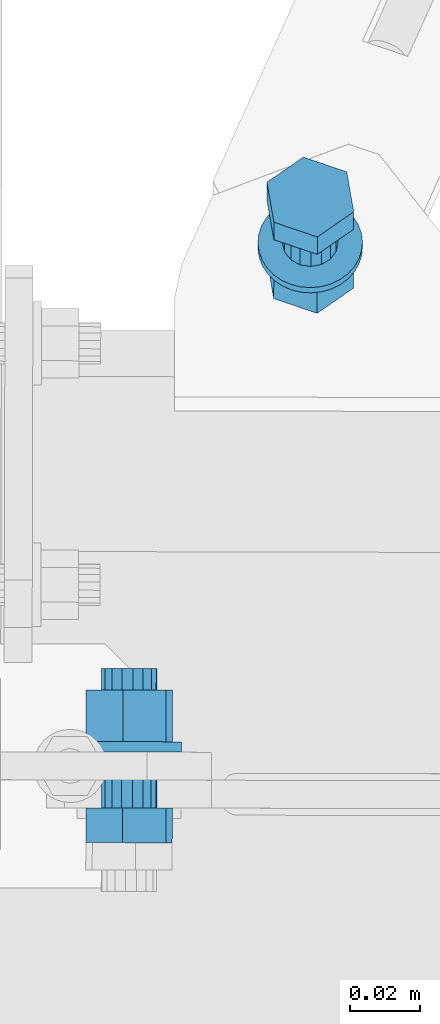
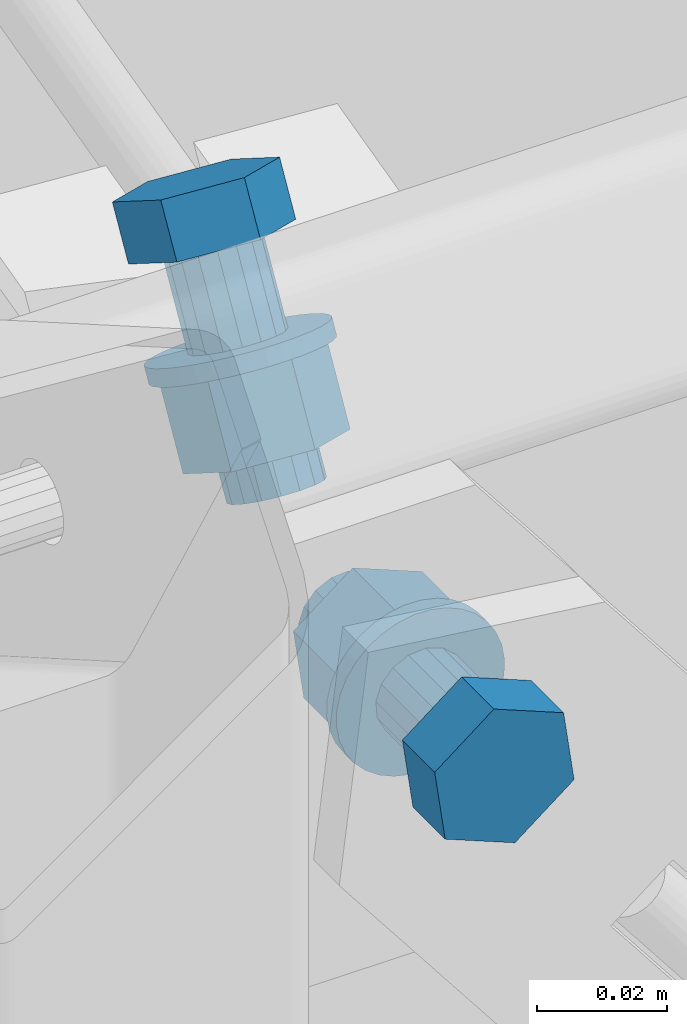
# One storey, part 207 of 288: 2 mechanical fasteners.
"""IFC2X3 building model written with IfcOpenShell, lengths in millimetres."""

import ifcopenshell
import ifcopenshell.guid

model = None  # the IFC model being written
_history = None  # IfcOwnerHistory: only IFC2X3 demands one
_inside = {}  # id of a spatial element -> (the spatial element, [elements in it])
_under = {}  # id of a project, library or spatial element -> (it, [spatial elements below it])
_declared = {}  # id of a project -> (the project, [libraries it declares])
_typed = {}  # id of a type object -> (the type object, [elements of that type])
_made_of = {}  # id of a material, layer set ... -> (it, [elements and type objects made of it])


def new_model(schema):
    """Start an empty IFC model of exactly this schema.

    Asked for "IFC4X3", IfcOpenShell would pick the latest addendum, in which some entities
    have other attributes; the version numbers below select the first issue.
    IFC2X3 requires an IfcOwnerHistory on every rooted entity: one is made here for all.
    """
    global model, _history
    if schema == "IFC4X3":
        model = ifcopenshell.file(schema_version=(4, 3, 0, 0))
    else:
        model = ifcopenshell.file(schema=schema)
    _inside.clear()
    _under.clear()
    _declared.clear()
    _typed.clear()
    _made_of.clear()
    _history = None
    if model.schema == "IFC2X3":
        org = make("IfcOrganization", Name="unknown")
        user = make(
            "IfcPersonAndOrganization",
            ThePerson=make("IfcPerson", FamilyName="unknown"),
            TheOrganization=org,
        )
        app = make(
            "IfcApplication",
            ApplicationDeveloper=org,
            Version="unknown",
            ApplicationFullName="unknown",
            ApplicationIdentifier="unknown",
        )
        _history = make(
            "IfcOwnerHistory",
            OwningUser=user,
            OwningApplication=app,
            ChangeAction="ADDED",
            CreationDate=0,
        )
    return model


def make(cls, **values):
    """One entity of the class cls with the attributes given. An attribute that is None is left unset."""
    return model.create_entity(
        cls, **{name: value for name, value in values.items() if value is not None}
    )


def entity(cls, *values):
    """Any entity or typed value of the class cls, its attributes in the order of the schema. None: left unset."""
    e = model.create_entity(cls)
    for i, value in enumerate(values):
        if value is not None:
            e[i] = value
    return e


def rooted(cls, **values):
    """An entity with a GlobalId (a new one), such as an element, a storey or a relation."""
    return make(cls, GlobalId=ifcopenshell.guid.new(), OwnerHistory=_history, **values)


def si_unit(unit_type, name, prefix=None):
    """IfcSIUnit, for example si_unit("LENGTHUNIT", "METRE", prefix="MILLI")."""
    return make("IfcSIUnit", UnitType=unit_type, Prefix=prefix, Name=name)


def converted_unit(unit_type, name, factor, base, dimensions=None, offset=None):
    """IfcConversionBasedUnit, such as the inch: factor (a typed value) times the base unit."""
    return make(
        "IfcConversionBasedUnit"
        if offset is None
        else "IfcConversionBasedUnitWithOffset",
        ConversionOffset=offset,
        Dimensions=None
        if dimensions is None
        else entity("IfcDimensionalExponents", *dimensions),
        UnitType=unit_type,
        Name=name,
        ConversionFactor=make(
            "IfcMeasureWithUnit", ValueComponent=factor, UnitComponent=base
        ),
    )


def assignment(units):
    """IfcUnitAssignment: the units of a project."""
    return None if units is None else make("IfcUnitAssignment", Units=units)


def point(xyz):
    """IfcCartesianPoint."""
    return None if xyz is None else make("IfcCartesianPoint", Coordinates=xyz)


def direction(xyz):
    """IfcDirection."""
    return None if xyz is None else make("IfcDirection", DirectionRatios=xyz)


def frame(location, z_axis=None, x_axis=None):
    """IfcAxis2Placement3D, a coordinate frame: its origin and axes. An axis left out is left unset."""
    return make(
        "IfcAxis2Placement3D",
        Location=point(location),
        Axis=direction(z_axis),
        RefDirection=direction(x_axis),
    )


def origin_with_axes():
    """The frame at (0, 0, 0) with the z axis (0, 0, 1) and the x axis (1, 0, 0) written out."""
    return frame((0.0, 0.0, 0.0), z_axis=(0.0, 0.0, 1.0), x_axis=(1.0, 0.0, 0.0))


def place(relative_to, where):
    """IfcLocalPlacement: puts the frame where relative to a parent placement (None: the world)."""
    return make(
        "IfcLocalPlacement", PlacementRelTo=relative_to, RelativePlacement=where
    )


def context(
    kind, dimensions, precision=None, world=None, true_north=None, identifier=None
):
    """IfcGeometricRepresentationContext, for example the 3D "Model" context."""
    return make(
        "IfcGeometricRepresentationContext",
        ContextIdentifier=identifier,
        ContextType=kind,
        CoordinateSpaceDimension=dimensions,
        Precision=precision,
        WorldCoordinateSystem=world,
        TrueNorth=true_north,
    )


def project(units=None, contexts=None):
    """IfcProject with its units and contexts."""
    return rooted(
        "IfcProject",
        Name="project",
        RepresentationContexts=contexts,
        UnitsInContext=assignment(units),
    )


def spatial(cls, under=None, at=None, **own):
    """A site, building, storey or space (cls), placed at a placement, below another one or the project."""
    s = rooted(cls, ObjectPlacement=at, **own)
    if under is not None:
        _under.setdefault(under.id(), (under, []))[1].append(s)
    return s


def faces_of(points, faces, orient=None, outer=None):
    """IfcFace entities. A face is a list of loops; a loop is a list of indices into points, from 0.

    orient and outer hold one flag for each loop. By default every Orientation is true, the
    first loop of a face is its IfcFaceOuterBound and the others are IfcFaceBound.
    """
    made = []
    for i, loops in enumerate(faces):
        bounds = []
        for j, loop in enumerate(loops):
            is_outer = j == 0 if outer is None else outer[i][j]
            bounds.append(
                make(
                    "IfcFaceOuterBound" if is_outer else "IfcFaceBound",
                    Bound=make("IfcPolyLoop", Polygon=[points[k] for k in loop]),
                    Orientation=True if orient is None else orient[i][j],
                )
            )
        made.append(make("IfcFace", Bounds=bounds))
    return made


def faceted_brep(points, faces, orient=None, outer=None, voids=None):
    """IfcFacetedBrep: a solid bounded by flat faces; with voids (closed shells), ...WithVoids."""
    shared = [point(p) for p in points]
    hull = make("IfcClosedShell", CfsFaces=faces_of(shared, faces, orient, outer))
    if voids is None:
        return make("IfcFacetedBrep", Outer=hull)
    return make(
        "IfcFacetedBrepWithVoids",
        Outer=hull,
        Voids=[
            make(cls, CfsFaces=faces_of(shared, fs, o, b)) for cls, fs, o, b in voids
        ],
    )


def shape(context_of_items, identifier, shape_type, items):
    """IfcShapeRepresentation: the items that make up one representation, for example the "Body"."""
    return make(
        "IfcShapeRepresentation",
        ContextOfItems=context_of_items,
        RepresentationIdentifier=identifier,
        RepresentationType=shape_type,
        Items=items,
    )


def made_of(thing, what):
    """Note that an element or type object is made of a material, layer set ...; save() writes the relation."""
    if what is not None:
        _made_of.setdefault(what.id(), (what, []))[1].append(thing)
    return thing


def element(
    cls,
    number,
    at=None,
    inside=None,
    cuts=None,
    type_object=None,
    material=None,
    context=None,
    identifier="Body",
    shape_type=None,
    held_by="IfcProductDefinitionShape",
    body=None,
    shapes=None,
    **own,
):
    """One element of the class cls, such as IfcWall. Its Tag is "e" and its number.

    at: its placement. inside: the storey or other place that contains it. cuts: it is an
    opening in that element (IfcRelVoidsElement). A single representation is given by context,
    identifier, shape_type and body (its items); several are given by shapes. held_by: the class
    of the entity that holds the representations. save() writes the other relations.
    """
    e = rooted(cls, Tag="e%d" % number, ObjectPlacement=at, **own)
    if body is not None:
        shapes = [shape(context, identifier, shape_type, body)]
    if shapes is not None:
        e.Representation = make(held_by, Representations=shapes)
    if inside is not None:
        _inside.setdefault(inside.id(), (inside, []))[1].append(e)
    if cuts is not None:
        rooted(
            "IfcRelVoidsElement", RelatingBuildingElement=cuts, RelatedOpeningElement=e
        )
    if type_object is not None:
        _typed.setdefault(type_object.id(), (type_object, []))[1].append(e)
    return made_of(e, material)


def aggregate(whole, parts):
    """IfcRelAggregates: a whole, such as a stair, and the parts it consists of."""
    return rooted("IfcRelAggregates", RelatingObject=whole, RelatedObjects=parts)


def save(model, path):
    """Write the relations noted so far, then the file.

    IfcRelAggregates (storeys below a building ...), IfcRelContainedInSpatialStructure (elements
    in a storey), IfcRelDefinesByType, IfcRelAssociatesMaterial and IfcRelDeclares: one each for
    every whole, place, type object, material and project.
    """
    for whole, parts in _under.values():
        aggregate(whole, parts)
    for where, things in _inside.values():
        rooted(
            "IfcRelContainedInSpatialStructure",
            RelatedElements=things,
            RelatingStructure=where,
        )
    for kind, things in _typed.values():
        rooted("IfcRelDefinesByType", RelatedObjects=things, RelatingType=kind)
    for what, things in _made_of.values():
        rooted("IfcRelAssociatesMaterial", RelatedObjects=things, RelatingMaterial=what)
    for by, libraries in _declared.values():
        rooted("IfcRelDeclares", RelatingContext=by, RelatedDefinitions=libraries)
    model.write(path)


model = new_model("IFC2X3")

# Units and contexts
model_context = context("Model", 3, precision=1e-09, world=origin_with_axes())
ifc_project = project(units=[si_unit("LENGTHUNIT", "METRE", prefix="MILLI"), si_unit("AREAUNIT", "SQUARE_METRE"), si_unit("VOLUMEUNIT", "CUBIC_METRE"), converted_unit("PLANEANGLEUNIT", "DEGREE", entity("IfcPlaneAngleMeasure", 0.01745329), si_unit("PLANEANGLEUNIT", "RADIAN"), dimensions=[0, 0, 0, 0, 0, 0, 0])], contexts=[model_context])

# Site, building, storey
site_placement = place(None, origin_with_axes())
site = spatial("IfcSite", under=ifc_project, at=site_placement, Name="Remont ?wietlik?w nad MC w NCPP w Opolu", CompositionType="ELEMENT")
building_placement = place(site_placement, origin_with_axes())
building = spatial("IfcBuilding", under=site, at=building_placement, Name="Konstrukcja 1", CompositionType="ELEMENT")
storey_placement = place(building_placement, origin_with_axes())
storey = spatial("IfcBuildingStorey", under=building, at=storey_placement, Name="Default Storey", CompositionType="ELEMENT", Elevation=0.0)

# Mechanical fasteners
mechanical_fastener_1_placement = place(None, origin_with_axes())
element("IfcMechanicalFastener", 1, at=mechanical_fastener_1_placement, inside=storey, ObjectType="Bolt#1", NominalDiameter=16.0, NominalLength=40.0, context=model_context, shape_type="Brep", body=[
    faceted_brep([(6065.591191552, -150.668082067, 1206.069501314), (6065.568497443, -160.668056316, 1206.069501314), (6053.167732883, -160.639913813, 1211.080576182), (6053.190426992, -150.639939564, 1211.080576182), (6051.307057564, -160.635691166, 1224.325518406), (6051.329751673, -150.635716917, 1224.325518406), (6061.847146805, -160.659611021, 1232.559385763), (6061.869840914, -150.659636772, 1232.559385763), (6074.247911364, -160.687753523, 1227.548310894), (6074.270605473, -150.687779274, 1227.548310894), (6076.108586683, -160.691976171, 1214.30336867), (6076.131280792, -150.692001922, 1214.30336867)], [[[0, 1, 2, 3]], [[3, 2, 4, 5]], [[5, 4, 6, 7]], [[7, 6, 8, 9]], [[9, 8, 10, 11]], [[11, 10, 1, 0]], [[4, 2, 1, 10, 8, 6]], [[0, 3, 5, 7, 9, 11]]]),
    faceted_brep([(6058.805598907, -150.65268273, 1225.618812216), (6058.841909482, -134.652723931, 1225.618812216), (6056.804225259, -134.648099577, 1223.254231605), (6056.767914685, -150.648058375, 1223.254231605), (6055.826534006, -134.645880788, 1220.289853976), (6055.790223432, -150.645839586, 1220.289853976), (6056.057680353, -134.646405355, 1217.17697895), (6056.021369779, -150.646364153, 1217.17697895), (6057.462474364, -134.649593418, 1214.389513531), (6057.42616379, -150.649552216, 1214.389513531), (6059.827048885, -134.654959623, 1212.351824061), (6059.790738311, -150.654918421, 1212.351824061), (6062.791418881, -134.661687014, 1211.37413029), (6062.755108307, -150.661645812, 1211.37413029), (6065.904285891, -134.668751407, 1211.605277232), (6065.867975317, -150.668710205, 1211.605277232), (6068.691744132, -134.675077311, 1213.010074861), (6068.655433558, -150.675036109, 1213.010074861), (6070.729428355, -134.679701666, 1215.374655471), (6070.69311778, -150.679660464, 1215.374655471), (6071.707119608, -134.681920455, 1218.3390331), (6071.670809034, -150.681879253, 1218.3390331), (6071.475973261, -134.681395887, 1221.451908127), (6071.439662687, -150.681354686, 1221.451908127), (6070.07117925, -134.678207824, 1224.239373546), (6070.034868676, -150.678166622, 1224.239373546), (6067.706604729, -134.672841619, 1226.277063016), (6067.670294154, -150.672800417, 1226.277063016), (6064.742234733, -134.666114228, 1227.254756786), (6064.705924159, -150.666073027, 1227.254756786), (6061.629367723, -134.659049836, 1227.023609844), (6061.593057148, -150.659008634, 1227.023609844)], [[[0, 1, 2, 3]], [[3, 2, 4, 5]], [[5, 4, 6, 7]], [[7, 6, 8, 9]], [[9, 8, 10, 11]], [[11, 10, 12, 13]], [[13, 12, 14, 15]], [[15, 14, 16, 17]], [[17, 16, 18, 19]], [[19, 18, 20, 21]], [[21, 20, 22, 23]], [[23, 22, 24, 25]], [[25, 24, 26, 27]], [[27, 26, 28, 29]], [[29, 28, 30, 31]], [[31, 30, 1, 0]], [[0, 3, 5, 7, 9, 11, 13, 15, 17, 19, 21, 23, 25, 27, 29, 31]], [[1, 30, 28, 26, 24, 22, 20, 18, 16, 14, 12, 10, 8, 6, 4, 2]]]),
    faceted_brep([(6054.532606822, -134.642944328, 1231.135134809), (6054.539415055, -131.642952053, 1231.135134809), (6052.410751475, -131.638121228, 1229.106491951), (6052.403943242, -134.638113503, 1229.106491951), (6050.718757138, -131.634281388, 1226.701546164), (6050.711948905, -134.634273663, 1226.701546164), (6049.528454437, -131.631580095, 1224.012718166), (6049.521646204, -134.63157237, 1224.012718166), (6048.885586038, -131.630121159, 1221.143338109), (6048.878777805, -134.630113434, 1221.143338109), (6048.814857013, -131.629960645, 1218.203674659), (6048.80804878, -134.62995292, 1218.203674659), (6049.318985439, -131.631104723, 1215.306697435), (6049.312177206, -134.631096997, 1215.306697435), (6050.378597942, -131.633509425, 1212.563735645), (6050.371789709, -134.6335017, 1212.563735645), (6051.952974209, -131.637082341, 1210.080199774), (6051.946165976, -134.637074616, 1210.080199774), (6053.981611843, -131.641686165, 1207.951530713), (6053.97480361, -134.64167844, 1207.951530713), (6056.386551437, -131.647143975, 1206.259532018), (6056.379743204, -134.64713625, 1206.259532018), (6059.07537251, -131.653246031, 1205.069226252), (6059.068564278, -134.653238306, 1205.069226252), (6061.944745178, -131.659757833, 1204.426356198), (6061.937936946, -134.659750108, 1204.426356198), (6064.884401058, -131.666429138, 1204.355626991), (6064.877592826, -134.666421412, 1204.355626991), (6067.781370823, -131.673003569, 1204.859756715), (6067.77456259, -134.672995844, 1204.859756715), (6070.524325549, -131.679228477, 1205.919371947), (6070.517517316, -134.679220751, 1205.919371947), (6073.007855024, -131.68486464, 1207.493752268), (6073.001046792, -134.684856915, 1207.493752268), (6075.136518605, -131.689695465, 1209.522395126), (6075.129710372, -134.68968774, 1209.522395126), (6076.828512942, -131.693535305, 1211.927340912), (6076.821704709, -134.69352758, 1211.927340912), (6078.018815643, -131.696236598, 1214.61616891), (6078.01200741, -134.696228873, 1214.61616891), (6078.661684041, -131.697695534, 1217.485548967), (6078.654875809, -134.697687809, 1217.485548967), (6078.732413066, -131.697856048, 1220.425212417), (6078.725604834, -134.697848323, 1220.425212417), (6078.228284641, -131.696711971, 1223.322189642), (6078.221476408, -134.696704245, 1223.322189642), (6077.168672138, -131.694307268, 1226.065151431), (6077.161863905, -134.694299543, 1226.065151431), (6075.59429587, -131.690734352, 1228.548687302), (6075.587487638, -134.690726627, 1228.548687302), (6073.565658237, -131.686130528, 1230.677356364), (6073.558850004, -134.686122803, 1230.677356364), (6071.160718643, -131.680672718, 1232.369355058), (6071.15391041, -134.680664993, 1232.369355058), (6068.471897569, -131.674570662, 1233.559660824), (6068.465089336, -134.674562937, 1233.559660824), (6065.602524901, -131.66805886, 1234.202530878), (6065.595716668, -134.668051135, 1234.202530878), (6062.662869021, -131.661387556, 1234.273260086), (6062.656060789, -134.66137983, 1234.273260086), (6059.765899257, -131.654813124, 1233.769130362), (6059.759091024, -134.654805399, 1233.769130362), (6057.022944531, -131.648588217, 1232.70951513), (6057.016136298, -134.648580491, 1232.70951513)], [[[0, 1, 2, 3]], [[3, 2, 4, 5]], [[5, 4, 6, 7]], [[7, 6, 8, 9]], [[9, 8, 10, 11]], [[11, 10, 12, 13]], [[13, 12, 14, 15]], [[15, 14, 16, 17]], [[17, 16, 18, 19]], [[19, 18, 20, 21]], [[21, 20, 22, 23]], [[23, 22, 24, 25]], [[25, 24, 26, 27]], [[27, 26, 28, 29]], [[29, 28, 30, 31]], [[31, 30, 32, 33]], [[33, 32, 34, 35]], [[35, 34, 36, 37]], [[37, 36, 38, 39]], [[39, 38, 40, 41]], [[41, 40, 42, 43]], [[43, 42, 44, 45]], [[45, 44, 46, 47]], [[47, 46, 48, 49]], [[49, 48, 50, 51]], [[51, 50, 52, 53]], [[53, 52, 54, 55]], [[55, 54, 56, 57]], [[57, 56, 58, 59]], [[59, 58, 60, 61]], [[61, 60, 62, 63]], [[63, 62, 1, 0]], [[0, 3, 5, 7, 9, 11, 13, 15, 17, 19, 21, 23, 25, 27, 29, 31, 33, 35, 37, 39, 41, 43, 45, 47, 49, 51, 53, 55, 57, 59, 61, 63]], [[1, 62, 60, 58, 56, 54, 52, 50, 48, 46, 44, 42, 40, 38, 36, 34, 32, 30, 28, 26, 24, 22, 20, 18, 16, 14, 12, 10, 8, 6, 4, 2]]]),
    faceted_brep([(6065.66789764, -116.868169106, 1206.069501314), (6065.634310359, -131.668130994, 1206.069501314), (6053.233545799, -131.639988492, 1211.080576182), (6053.26713308, -116.840026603, 1211.080576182), (6051.37287048, -131.635765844, 1224.325518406), (6051.406457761, -116.835803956, 1224.325518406), (6061.912959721, -131.659685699, 1232.559385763), (6061.946547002, -116.859723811, 1232.559385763), (6074.31372428, -131.687828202, 1227.548310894), (6074.347311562, -116.887866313, 1227.548310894), (6076.174399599, -131.692050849, 1214.30336867), (6076.207986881, -116.892088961, 1214.30336867)], [[[0, 1, 2, 3]], [[3, 2, 4, 5]], [[5, 4, 6, 7]], [[7, 6, 8, 9]], [[9, 8, 10, 11]], [[11, 10, 1, 0]], [[4, 2, 1, 10, 8, 6]], [[0, 3, 5, 7, 9, 11]]]),
    faceted_brep([(6058.882304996, -116.852769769, 1225.618812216), (6058.896375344, -110.652785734, 1225.618812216), (6056.858691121, -110.64816138, 1223.254231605), (6056.844620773, -116.848145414, 1223.254231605), (6055.880999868, -110.645942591, 1220.289853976), (6055.86692952, -116.845926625, 1220.289853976), (6056.112146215, -110.646467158, 1217.17697895), (6056.098075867, -116.846451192, 1217.17697895), (6057.516940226, -110.649655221, 1214.389513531), (6057.502869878, -116.849639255, 1214.389513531), (6059.881514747, -110.655021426, 1212.351824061), (6059.867444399, -116.85500546, 1212.351824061), (6062.845884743, -110.661748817, 1211.37413029), (6062.831814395, -116.861732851, 1211.37413029), (6065.958751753, -110.66881321, 1211.605277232), (6065.944681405, -116.868797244, 1211.605277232), (6068.746209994, -110.675139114, 1213.010074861), (6068.732139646, -116.875123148, 1213.010074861), (6070.783894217, -110.679763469, 1215.374655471), (6070.769823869, -116.879747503, 1215.374655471), (6071.76158547, -110.681982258, 1218.3390331), (6071.747515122, -116.881966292, 1218.3390331), (6071.530439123, -110.68145769, 1221.451908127), (6071.516368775, -116.881441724, 1221.451908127), (6070.125645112, -110.678269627, 1224.239373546), (6070.111574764, -116.878253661, 1224.239373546), (6067.76107059, -110.672903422, 1226.277063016), (6067.747000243, -116.872887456, 1226.277063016), (6064.796700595, -110.666176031, 1227.254756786), (6064.782630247, -116.866160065, 1227.254756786), (6061.683833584, -110.659111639, 1227.023609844), (6061.669763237, -116.859095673, 1227.023609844)], [[[0, 1, 2, 3]], [[3, 2, 4, 5]], [[5, 4, 6, 7]], [[7, 6, 8, 9]], [[9, 8, 10, 11]], [[11, 10, 12, 13]], [[13, 12, 14, 15]], [[15, 14, 16, 17]], [[17, 16, 18, 19]], [[19, 18, 20, 21]], [[21, 20, 22, 23]], [[23, 22, 24, 25]], [[25, 24, 26, 27]], [[27, 26, 28, 29]], [[29, 28, 30, 31]], [[31, 30, 1, 0]], [[0, 3, 5, 7, 9, 11, 13, 15, 17, 19, 21, 23, 25, 27, 29, 31]], [[1, 30, 28, 26, 24, 22, 20, 18, 16, 14, 12, 10, 8, 6, 4, 2]]]),
])
mechanical_fastener_2_placement = place(None, origin_with_axes())
element("IfcMechanicalFastener", 2, at=mechanical_fastener_2_placement, inside=storey, ObjectType="Bolt#1", NominalDiameter=16.0, NominalLength=40.0, context=model_context, shape_type="Brep", body=[
    faceted_brep([(6126.156682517, 26.805839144, 1188.23767938), (6126.167954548, 31.805823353, 1196.897935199), (6128.175683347, 20.352838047, 1203.507683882), (6128.164411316, 15.352853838, 1194.847428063), (6117.727710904, 13.127000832, 1207.693107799), (6117.716438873, 8.127016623, 1199.03285198), (6105.272009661, 17.354148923, 1205.268783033), (6105.26073763, 12.354164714, 1196.608527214), (6103.264280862, 28.807134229, 1198.65903435), (6103.253008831, 23.80715002, 1189.998778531), (6113.712253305, 36.032971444, 1194.473610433), (6113.700981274, 31.032987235, 1185.813354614)], [[[0, 1, 2, 3]], [[3, 2, 4, 5]], [[5, 4, 6, 7]], [[7, 6, 8, 9]], [[9, 8, 10, 11]], [[11, 10, 1, 0]], [[4, 2, 1, 10, 8, 6]], [[0, 3, 5, 7, 9, 11]]]),
    faceted_brep([(6112.794032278, 13.129625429, 1196.151011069), (6112.775997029, 5.129650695, 1182.294601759), (6115.848908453, 4.653084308, 1182.56574692), (6115.866943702, 12.653059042, 1196.42215623), (6118.897730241, 5.231082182, 1182.228072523), (6118.91576549, 13.231056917, 1196.084481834), (6121.458306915, 6.775649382, 1181.332986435), (6121.476342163, 14.775624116, 1195.189395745), (6123.140813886, 9.051639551, 1180.016757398), (6123.158849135, 17.051614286, 1193.873166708), (6123.689104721, 11.71255382, 1178.479769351), (6123.70713997, 19.712528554, 1192.336178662), (6123.01970711, 14.353292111, 1176.956014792), (6123.037742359, 22.353266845, 1190.812424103), (6121.234530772, 16.571825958, 1175.67747154), (6121.252566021, 24.571800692, 1189.53388085), (6118.605352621, 18.030403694, 1174.838786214), (6118.62338787, 26.030378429, 1188.695195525), (6115.532441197, 18.506970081, 1174.567641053), (6115.550476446, 26.506944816, 1188.424050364), (6112.483619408, 17.928972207, 1174.90531545), (6112.501654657, 25.928946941, 1188.76172476), (6109.923042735, 16.384405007, 1175.800401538), (6109.941077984, 24.384379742, 1189.656810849), (6108.240535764, 14.108414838, 1177.116630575), (6108.258571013, 22.108389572, 1190.973039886), (6107.692244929, 11.447500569, 1178.653618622), (6107.710280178, 19.447475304, 1192.510027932), (6108.36164254, 8.806762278, 1180.177373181), (6108.379677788, 16.806737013, 1194.033782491), (6110.146818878, 6.588228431, 1181.455916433), (6110.164854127, 14.588203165, 1195.312325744)], [[[0, 1, 2, 3]], [[3, 2, 4, 5]], [[5, 4, 6, 7]], [[7, 6, 8, 9]], [[9, 8, 10, 11]], [[11, 10, 12, 13]], [[13, 12, 14, 15]], [[15, 14, 16, 17]], [[17, 16, 18, 19]], [[19, 18, 20, 21]], [[21, 20, 22, 23]], [[23, 22, 24, 25]], [[25, 24, 26, 27]], [[27, 26, 28, 29]], [[29, 28, 30, 31]], [[31, 30, 1, 0]], [[0, 3, 5, 7, 9, 11, 13, 15, 17, 19, 21, 23, 25, 27, 29, 31]], [[1, 30, 28, 26, 24, 22, 20, 18, 16, 14, 12, 10, 8, 6, 4, 2]]]),
    faceted_brep([(6110.225653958, -0.514428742, 1185.55652106), (6110.222272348, -2.014424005, 1182.958444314), (6113.052499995, -2.70690235, 1183.354561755), (6113.055881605, -1.206907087, 1185.952638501), (6115.983981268, -2.907985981, 1183.466841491), (6115.987362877, -1.407990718, 1186.064918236), (6118.904060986, -2.609947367, 1183.290968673), (6118.907442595, -1.109952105, 1185.889045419), (6121.700522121, -1.824239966, 1182.833701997), (6121.703903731, -0.324244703, 1185.431778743), (6124.265898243, -0.581058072, 1182.112613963), (6124.269279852, 0.918937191, 1184.710690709), (6126.501603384, 1.071823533, 1181.155415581), (6126.504984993, 2.571818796, 1183.753492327), (6128.32172065, 3.070885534, 1179.998891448), (6128.325102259, 4.570880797, 1182.596968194), (6129.656303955, 5.339305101, 1178.687486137), (6129.659685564, 6.839300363, 1181.285562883), (6130.454066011, 7.789908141, 1177.271596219), (6130.457447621, 9.289903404, 1179.869672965), (6130.684349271, 10.328519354, 1175.805633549), (6130.68773088, 11.828514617, 1178.403710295), (6130.338304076, 12.857581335, 1174.345934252), (6130.341685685, 14.357576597, 1176.944010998), (6129.42922875, 15.27990365, 1172.948593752), (6129.43261036, 16.779898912, 1175.546670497), (6127.992058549, 17.502397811, 1171.66731106), (6127.995440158, 19.002393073, 1174.265387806), (6126.082023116, 19.439654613, 1170.551325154), (6126.085404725, 20.939649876, 1173.149401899), (6123.772524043, 21.017226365, 1169.643522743), (6123.775905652, 22.517221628, 1172.241599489), (6121.152314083, 22.174487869, 1168.978790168), (6121.155695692, 23.674483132, 1171.576866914), (6118.322086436, 22.866966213, 1168.582672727), (6118.325468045, 24.366961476, 1171.180749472), (6115.390605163, 23.068049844, 1168.470392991), (6115.393986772, 24.568045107, 1171.068469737), (6112.470525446, 22.770011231, 1168.646265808), (6112.473907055, 24.270006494, 1171.244342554), (6109.67406431, 21.98430383, 1169.103532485), (6109.677445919, 23.484299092, 1171.70160923), (6107.108688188, 20.741121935, 1169.824620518), (6107.112069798, 22.241117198, 1172.422697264), (6104.872983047, 19.088240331, 1170.7818189), (6104.876364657, 20.588235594, 1173.379895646), (6103.052865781, 17.08917833, 1171.938343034), (6103.056247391, 18.589173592, 1174.536419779), (6101.718282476, 14.820758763, 1173.249748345), (6101.721664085, 16.320754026, 1175.847825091), (6100.92052042, 12.370155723, 1174.665638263), (6100.923902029, 13.870150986, 1177.263715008), (6100.690237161, 9.83154451, 1176.131600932), (6100.69361877, 11.331539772, 1178.729677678), (6101.036282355, 7.302482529, 1177.59130023), (6101.039663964, 8.802477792, 1180.189376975), (6101.945357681, 4.880160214, 1178.98864073), (6101.94873929, 6.380155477, 1181.586717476), (6103.382527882, 2.657666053, 1180.269923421), (6103.385909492, 4.157661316, 1182.868000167), (6105.292563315, 0.72040925, 1181.385909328), (6105.295944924, 2.220404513, 1183.983986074), (6107.602062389, -0.857162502, 1182.293711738), (6107.605443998, 0.642832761, 1184.891788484)], [[[0, 1, 2, 3]], [[3, 2, 4, 5]], [[5, 4, 6, 7]], [[7, 6, 8, 9]], [[9, 8, 10, 11]], [[11, 10, 12, 13]], [[13, 12, 14, 15]], [[15, 14, 16, 17]], [[17, 16, 18, 19]], [[19, 18, 20, 21]], [[21, 20, 22, 23]], [[23, 22, 24, 25]], [[25, 24, 26, 27]], [[27, 26, 28, 29]], [[29, 28, 30, 31]], [[31, 30, 32, 33]], [[33, 32, 34, 35]], [[35, 34, 36, 37]], [[37, 36, 38, 39]], [[39, 38, 40, 41]], [[41, 40, 42, 43]], [[43, 42, 44, 45]], [[45, 44, 46, 47]], [[47, 46, 48, 49]], [[49, 48, 50, 51]], [[51, 50, 52, 53]], [[53, 52, 54, 55]], [[55, 54, 56, 57]], [[57, 56, 58, 59]], [[59, 58, 60, 61]], [[61, 60, 62, 63]], [[63, 62, 1, 0]], [[0, 3, 5, 7, 9, 11, 13, 15, 17, 19, 21, 23, 25, 27, 29, 31, 33, 35, 37, 39, 41, 43, 45, 47, 49, 51, 53, 55, 57, 59, 61, 63]], [[1, 62, 60, 58, 56, 54, 52, 50, 48, 46, 44, 42, 40, 38, 36, 34, 32, 30, 28, 26, 24, 22, 20, 18, 16, 14, 12, 10, 8, 6, 4, 2]]]),
    faceted_brep([(6126.118583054, 9.905892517, 1158.966014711), (6126.135265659, 17.305869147, 1171.783193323), (6128.142994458, 5.852883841, 1178.392942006), (6128.126311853, -1.547092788, 1165.575763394), (6117.695022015, -1.372953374, 1182.578365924), (6117.67833941, -8.772930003, 1169.761187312), (6105.239320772, 2.854194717, 1180.154041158), (6105.222638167, -4.545781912, 1167.336862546), (6103.231591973, 14.307180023, 1173.544292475), (6103.214909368, 6.907203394, 1160.727113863), (6113.679564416, 21.533017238, 1169.358868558), (6113.662881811, 14.133040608, 1156.541689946)], [[[0, 1, 2, 3]], [[3, 2, 4, 5]], [[5, 4, 6, 7]], [[7, 6, 8, 9]], [[9, 8, 10, 11]], [[11, 10, 1, 0]], [[4, 2, 1, 10, 8, 6]], [[0, 3, 5, 7, 9, 11]]]),
    faceted_brep([(6112.755932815, -3.770321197, 1166.879346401), (6112.748944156, -6.870311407, 1161.509987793), (6115.821855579, -7.346877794, 1161.781132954), (6115.828844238, -4.246887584, 1167.150491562), (6118.870677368, -6.768879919, 1161.443458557), (6118.877666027, -3.66888971, 1166.812817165), (6121.431254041, -5.22431272, 1160.548372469), (6121.4382427, -2.12432251, 1165.917731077), (6123.113761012, -2.94832255, 1159.232143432), (6123.120749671, 0.151667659, 1164.60150204), (6123.662051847, -0.287408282, 1157.695155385), (6123.669040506, 2.812581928, 1163.064513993), (6122.992654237, 2.353330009, 1156.171400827), (6122.999642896, 5.453320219, 1161.540759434), (6121.207477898, 4.571863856, 1154.892857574), (6121.214466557, 7.671854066, 1160.262216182), (6118.578299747, 6.030441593, 1154.054172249), (6118.585288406, 9.130431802, 1159.423530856), (6115.505388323, 6.50700798, 1153.783027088), (6115.512376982, 9.606998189, 1159.152385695), (6112.456566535, 5.929010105, 1154.120701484), (6112.463555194, 9.029000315, 1159.490060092), (6109.895989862, 4.384442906, 1155.015787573), (6109.902978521, 7.484433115, 1160.38514618), (6108.21348289, 2.108452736, 1156.33201661), (6108.220471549, 5.208442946, 1161.701375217), (6107.665192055, -0.552461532, 1157.869004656), (6107.672180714, 2.547528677, 1163.238363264), (6108.334589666, -3.193199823, 1159.392759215), (6108.341578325, -0.093209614, 1164.762117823), (6110.119766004, -5.41173367, 1160.671302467), (6110.126754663, -2.311743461, 1166.040661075)], [[[0, 1, 2, 3]], [[3, 2, 4, 5]], [[5, 4, 6, 7]], [[7, 6, 8, 9]], [[9, 8, 10, 11]], [[11, 10, 12, 13]], [[13, 12, 14, 15]], [[15, 14, 16, 17]], [[17, 16, 18, 19]], [[19, 18, 20, 21]], [[21, 20, 22, 23]], [[23, 22, 24, 25]], [[25, 24, 26, 27]], [[27, 26, 28, 29]], [[29, 28, 30, 31]], [[31, 30, 1, 0]], [[0, 3, 5, 7, 9, 11, 13, 15, 17, 19, 21, 23, 25, 27, 29, 31]], [[1, 30, 28, 26, 24, 22, 20, 18, 16, 14, 12, 10, 8, 6, 4, 2]]]),
])

save(model, "model.ifc")
